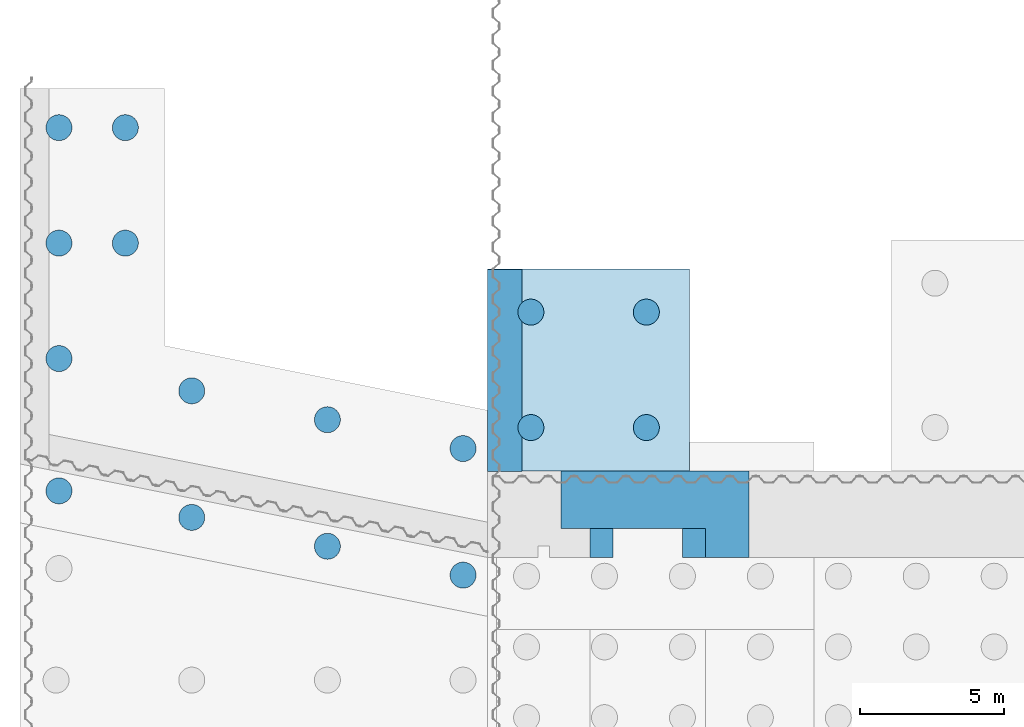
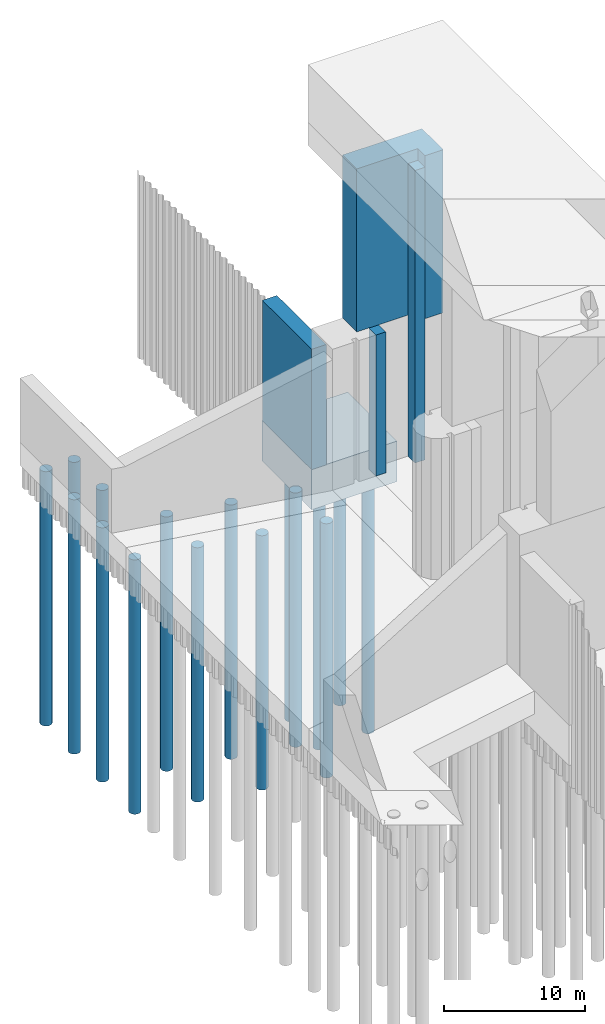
# One storey, part 6 of 9: 6 slabs.
"""IFC2X3 building model written with IfcOpenShell, lengths in millimetres."""

from ifc_helpers import new_model, entity, si_unit, converted_unit, derived_unit, direction, frame, frame_2d, origin, origin_2d_with_axis, place, context, subcontext, project, spatial, polyline, rectangle, circle, outline, extrude, material, type_object, element, save


model = new_model("IFC2X3")

# Units and contexts
model_context = context("Model", 3, precision=0.01, world=origin(), true_north=direction((6.12303176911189e-17, 1.0)))
body_context = subcontext(model_context, "Body", "Model", "MODEL_VIEW")
ifc_project = project(units=[si_unit("LENGTHUNIT", "METRE", prefix="MILLI"), si_unit("AREAUNIT", "SQUARE_METRE"), si_unit("VOLUMEUNIT", "CUBIC_METRE"), converted_unit("PLANEANGLEUNIT", "DEGREE", entity("IfcRatioMeasure", 0.0174532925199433), si_unit("PLANEANGLEUNIT", "RADIAN"), dimensions=[0, 0, 0, 0, 0, 0, 0]), si_unit("MASSUNIT", "GRAM", prefix="KILO"), derived_unit("MASSDENSITYUNIT", [(si_unit("MASSUNIT", "GRAM", prefix="KILO"), 1), (si_unit("LENGTHUNIT", "METRE"), -3)]), si_unit("TIMEUNIT", "SECOND"), si_unit("FREQUENCYUNIT", "HERTZ"), si_unit("THERMODYNAMICTEMPERATUREUNIT", "DEGREE_CELSIUS"), derived_unit("THERMALTRANSMITTANCEUNIT", [(si_unit("MASSUNIT", "GRAM", prefix="KILO"), 1), (si_unit("THERMODYNAMICTEMPERATUREUNIT", "KELVIN"), -1), (si_unit("TIMEUNIT", "SECOND"), -3)]), derived_unit("VOLUMETRICFLOWRATEUNIT", [(si_unit("LENGTHUNIT", "METRE"), 3), (si_unit("TIMEUNIT", "SECOND"), -1)]), si_unit("ELECTRICCURRENTUNIT", "AMPERE"), si_unit("ELECTRICVOLTAGEUNIT", "VOLT"), si_unit("POWERUNIT", "WATT"), si_unit("FORCEUNIT", "NEWTON", prefix="KILO"), si_unit("ILLUMINANCEUNIT", "LUX"), si_unit("LUMINOUSFLUXUNIT", "LUMEN"), si_unit("LUMINOUSINTENSITYUNIT", "CANDELA"), derived_unit("USERDEFINED", [(si_unit("MASSUNIT", "GRAM", prefix="KILO"), -1), (si_unit("LENGTHUNIT", "METRE"), -2), (si_unit("TIMEUNIT", "SECOND"), 3), (si_unit("LUMINOUSFLUXUNIT", "LUMEN"), 1)]), derived_unit("LINEARVELOCITYUNIT", [(si_unit("LENGTHUNIT", "METRE"), 1), (si_unit("TIMEUNIT", "SECOND"), -1)]), si_unit("PRESSUREUNIT", "PASCAL"), derived_unit("USERDEFINED", [(si_unit("LENGTHUNIT", "METRE"), -2), (si_unit("MASSUNIT", "GRAM", prefix="KILO"), 1), (si_unit("TIMEUNIT", "SECOND"), -2)])], contexts=[model_context])

# Site, building, storey
site_placement = place(None, origin())
site = spatial("IfcSite", under=ifc_project, at=site_placement, Name="Default", CompositionType="ELEMENT")
building_placement = place(site_placement, origin())
building = spatial("IfcBuilding", under=site, at=building_placement, CompositionType="ELEMENT")
storey_placement = place(building_placement, origin())
storey = spatial("IfcBuildingStorey", under=building, at=storey_placement, Name="設計GL", CompositionType="ELEMENT", Elevation=0.0)

# Slabs
ifc_material_1 = material(Name="コンクリート - 現場打ちコンクリート")
slab_type_1 = type_object("IfcSlabType", Name="40201_Co_川表胸壁(上流)底版", PredefinedType="FLOOR", material=ifc_material_1)
slab_1_placement = place(storey_placement, origin())
element("IfcSlab", 1, at=slab_1_placement, inside=storey, type_object=slab_type_1, Name="40201_Co_川表胸壁(上流)底版:40201_Co_川表胸壁(上流)底版", ObjectType="40201_Co_川表胸壁(上流)底版:40201_Co_川表胸壁(上流)底版", PredefinedType="FLOOR", context=body_context, shape_type="SweptSolid", body=[
    extrude(rectangle(XDim=7000.00000000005, YDim=7000.0, at=origin_2d_with_axis()), frame((-49611.619806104, -43292.1243992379, 710.0), z_axis=(0.0, 0.0, 1.0), x_axis=(0.0, 1.0, 0.0)), (0.0, 0.0, 1.0), 3500.0),
])
slab_type_2 = type_object("IfcSlabType", Name="41501_Co_川表胸壁(上流)側壁", PredefinedType="FLOOR", material=ifc_material_1)
slab_2_placement = place(storey_placement, origin())
element("IfcSlab", 2, at=slab_2_placement, inside=storey, type_object=slab_type_2, Name="41501_Co_川表胸壁(上流)側壁:41501_Co_川表胸壁(上流)側壁", ObjectType="41501_Co_川表胸壁(上流)側壁:41501_Co_川表胸壁(上流)側壁", PredefinedType="FLOOR", context=body_context, shape_type="SweptSolid", body=[
    extrude(rectangle(XDim=7000.00000000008, YDim=1200.0, at=frame_2d((4.32009983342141e-12, -4.32009983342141e-12), x_axis=(1.0, 0.0))), frame((-52512.1441951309, -43322.1389265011, 4210.0), z_axis=(0.0, 0.0, 1.0), x_axis=(0.0, 1.0, 0.0)), (0.0, 0.0, 1.0), 10400.0),
])
slab_type_3 = type_object("IfcSlabType", Name="51301_2次Co_端堰柱(上流)", PredefinedType="FLOOR", material=ifc_material_1)
slab_3_placement = place(storey_placement, origin())
element("IfcSlab", 3, at=slab_3_placement, inside=storey, type_object=slab_type_3, Name="51301_2次Co_端堰柱(上流):51301_2次Co_端堰柱(上流)", ObjectType="51301_2次Co_端堰柱(上流):51301_2次Co_端堰柱(上流)", PredefinedType="FLOOR", context=body_context, shape_type="SweptSolid", body=[
    extrude(rectangle(XDim=999.999999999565, YDim=800.0, at=frame_2d((0.0, -4.34852154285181e-12), x_axis=(1.0, 0.0))), frame((-49161.6198031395, -49292.124399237, 4210.0), z_axis=(0.0, 0.0, 1.0), x_axis=(0.0, 1.0, 0.0)), (0.0, 0.0, 1.0), 12200.0),
    extrude(rectangle(XDim=1000.00000000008, YDim=800.0, at=frame_2d((4.34852154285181e-12, -4.34852154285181e-12), x_axis=(1.0, 0.0))), frame((-45961.6198031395, -49292.1243992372, 4210.0), z_axis=(0.0, 0.0, 1.0), x_axis=(0.0, 1.0, 0.0)), (0.0, 0.0, 1.0), 25310.0),
])
slab_type_4 = type_object("IfcSlabType", Name="42401_Co_端門柱(上流)", PredefinedType="FLOOR", material=ifc_material_1)
slab_4_placement = place(storey_placement, origin())
element("IfcSlab", 4, at=slab_4_placement, inside=storey, type_object=slab_type_4, Name="42401_Co_端門柱(上流):42401_Co_端門柱(上流)", ObjectType="42401_Co_端門柱(上流):42401_Co_端門柱(上流)", PredefinedType="FLOOR", context=body_context, shape_type="SweptSolid", body=[
    extrude(outline(polyline([(-1666.66666666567, -3833.33333234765), (333.333333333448, -3833.33333234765), (333.333333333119, 1166.66666765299), (1333.33333333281, 1166.66666765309), (1333.33333333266, 2666.66666469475), (-1666.66666666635, 2666.66666469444), (-1666.66666666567, -3833.33333234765)])), frame((-46727.9303557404, -48458.9745981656, 16410.0), z_axis=(0.0, 0.0, 1.0), x_axis=(0.0, -1.0, 0.0)), (0.0, 0.0, 1.0), 14109.9999999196),
])
ifc_material_2 = material(Name="ベタ基礎")
slab_type_5 = type_object("IfcSlabType", Name="70201.dwg", PredefinedType="FLOOR", material=ifc_material_2)
slab_5_placement = place(storey_placement, origin())
element("IfcSlab", 5, at=slab_5_placement, inside=storey, type_object=slab_type_5, Name="70201.dwg:70201.dwg", ObjectType="70201.dwg:70201.dwg", PredefinedType="FLOOR", context=body_context, shape_type="SweptSolid", body=[
    extrude(circle(Radius=450.0, at=origin_2d_with_axis()), frame((-51612.6693128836, -45292.3079312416, -21190.0)), (0.0, 0.0, 1.0), 22000.0),
    extrude(circle(Radius=450.0, at=origin_2d_with_axis()), frame((-51612.6693128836, -41292.3079312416, -21190.0)), (0.0, 0.0, 1.0), 22000.0),
    extrude(circle(Radius=450.0, at=origin_2d_with_axis()), frame((-47612.6693128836, -45292.3079312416, -21190.0)), (0.0, 0.0, 1.0), 22000.0),
    extrude(circle(Radius=450.0, at=origin_2d_with_axis()), frame((-47612.6693128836, -41292.3079312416, -21190.0)), (0.0, 0.0, 1.0), 22000.0),
])
slab_type_6 = type_object("IfcSlabType", Name="70601.dwg", PredefinedType="FLOOR", material=ifc_material_2)
slab_6_placement = place(storey_placement, origin())
element("IfcSlab", 6, at=slab_6_placement, inside=storey, type_object=slab_type_6, Name="70601.dwg:70601.dwg", ObjectType="70601.dwg:70601.dwg", PredefinedType="FLOOR", context=body_context, shape_type="SweptSolid", body=[
    extrude(circle(Radius=449.999999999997, at=origin_2d_with_axis()), frame((-67962.6899121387, -47485.1763481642, -19690.0)), (0.0, 0.0, 1.0), 22000.0),
    extrude(circle(Radius=449.999999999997, at=origin_2d_with_axis()), frame((-63362.4901623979, -48405.216298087, -19690.0)), (0.0, 0.0, 1.0), 22000.0),
    extrude(circle(Radius=449.999999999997, at=origin_2d_with_axis()), frame((-58662.5038956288, -49405.2808420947, -19690.0)), (0.0, 0.0, 1.0), 22000.0),
    extrude(circle(Radius=449.999999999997, at=origin_2d_with_axis()), frame((-53962.5176288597, -50405.3453861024, -19690.0)), (0.0, 0.0, 1.0), 22000.0),
    extrude(circle(Radius=449.999999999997, at=origin_2d_with_axis()), frame((-53962.4976544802, -46020.1925992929, -19690.0)), (0.0, 0.0, 1.0), 22000.0),
    extrude(circle(Radius=449.999999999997, at=origin_2d_with_axis()), frame((-58662.4839212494, -45020.1280552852, -19690.0)), (0.0, 0.0, 1.0), 22000.0),
    extrude(circle(Radius=449.999999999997, at=origin_2d_with_axis()), frame((-63362.4701880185, -44020.0635112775, -19690.0)), (0.0, 0.0, 1.0), 22000.0),
    extrude(circle(Radius=449.999999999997, at=origin_2d_with_axis()), frame((-67962.6693129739, -42902.3079311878, -19690.0)), (0.0, 0.0, 1.0), 22000.0),
    extrude(circle(Radius=449.999999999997, at=origin_2d_with_axis()), frame((-67962.6487138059, -38902.3079312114, -19690.0)), (0.0, 0.0, 1.0), 22000.0),
    extrude(circle(Radius=449.999999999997, at=origin_2d_with_axis()), frame((-65662.6899121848, -38902.307931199, -19690.0)), (0.0, 0.0, 1.0), 22000.0),
    extrude(circle(Radius=449.999999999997, at=origin_2d_with_axis()), frame((-65662.6693130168, -34902.3079312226, -19690.0)), (0.0, 0.0, 1.0), 22000.0),
    extrude(circle(Radius=449.999999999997, at=origin_2d_with_axis()), frame((-67962.6281146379, -34902.3079312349, -19690.0)), (0.0, 0.0, 1.0), 22000.0),
])

save(model, "model.ifc")
